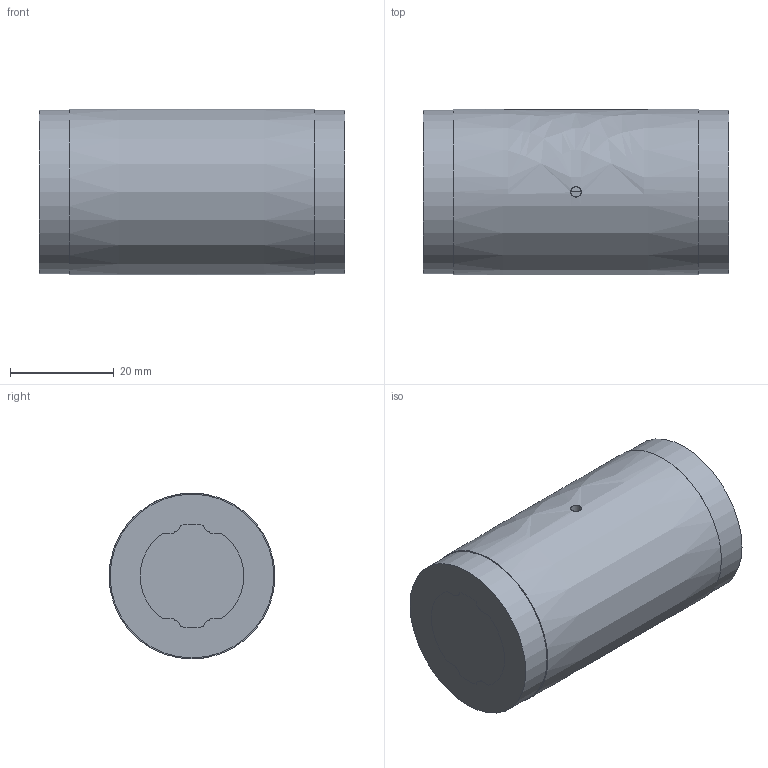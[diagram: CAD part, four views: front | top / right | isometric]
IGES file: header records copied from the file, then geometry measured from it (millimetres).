
Start section: Data from Parasolid IGES Translator 26.0.171, Copyright(c) 2006 Siemens PLM Software. All Rights Reserved.
Global section: file name: LT20X+59L(00).igs; native system: By Siemens PLM Incorporated; preprocessor: XPlus GENERIC/IGES 26.0.171; author: Noname; organization: Noname; date: 20240528.070802; units: millimetre
Bounding box: 59 x 32 x 32 mm (x, y, z)
Surface area: 15356.4 mm2 (no closed solid volume)
Topology: 0 solids, 0 shells, 66 faces, 362 edges, 356 vertices
Faces by surface type: revolution 41, extrusion 25
